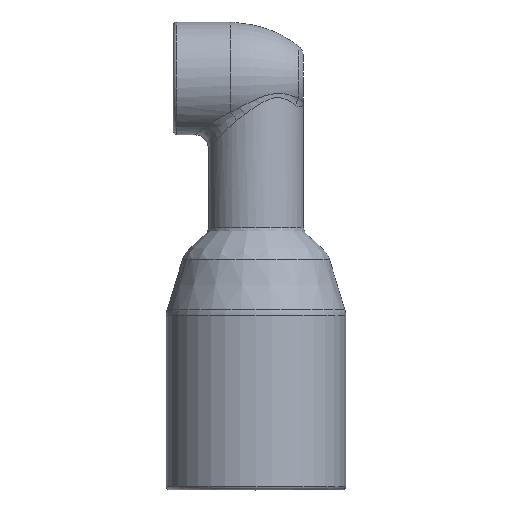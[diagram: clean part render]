
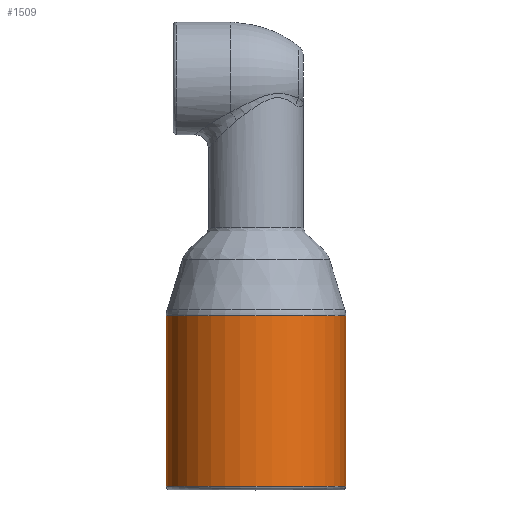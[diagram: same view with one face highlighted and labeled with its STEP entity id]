
A CAD part, top view. The second image highlights one B-rep face of the part: STEP entity #1509.
In plain terms, the highlighted cylindrical face has radius 25.5 mm (diameter 51 mm), a partial arc.
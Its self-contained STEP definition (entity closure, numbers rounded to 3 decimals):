
#282=CARTESIAN_POINT('',(0.,0.44,0.));
#283=DIRECTION('',(0.,-1.,0.));
#284=DIRECTION('',(1.,0.,0.));
#285=AXIS2_PLACEMENT_3D('',#282,#283,#284);
#298=CARTESIAN_POINT('',(0.,-48.06,0.));
#299=DIRECTION('',(0.,1.,0.));
#300=DIRECTION('',(-1.,0.,0.));
#301=AXIS2_PLACEMENT_3D('',#298,#299,#300);
#306=DIRECTION('',(0.,1.,0.));
#307=VECTOR('',#306,48.5);
#308=CARTESIAN_POINT('',(-25.5,-48.06,0.));
#309=LINE('',#308,#307);
#313=DIRECTION('',(0.,1.,0.));
#314=VECTOR('',#313,48.5);
#315=CARTESIAN_POINT('',(25.5,-48.06,0.));
#316=LINE('',#315,#314);
#1090=CARTESIAN_POINT('',(25.5,0.44,0.));
#1092=VERTEX_POINT('',#1090);
#1096=CARTESIAN_POINT('',(-25.5,0.44,0.));
#1098=VERTEX_POINT('',#1096);
#1110=CARTESIAN_POINT('',(-25.5,-48.06,0.));
#1111=CARTESIAN_POINT('',(25.5,-48.06,0.));
#1112=VERTEX_POINT('',#1110);
#1113=VERTEX_POINT('',#1111);
#1495=CARTESIAN_POINT('',(0.,-54.91,0.));
#1496=DIRECTION('',(0.,1.,0.));
#1497=DIRECTION('',(1.,0.,0.));
#1498=AXIS2_PLACEMENT_3D('',#1495,#1496,#1497);
#1499=CYLINDRICAL_SURFACE('',#1498,25.5);
#1501=ORIENTED_EDGE('',*,*,#1500,.F.);
#1503=ORIENTED_EDGE('',*,*,#1502,.T.);
#1504=ORIENTED_EDGE('',*,*,#1488,.F.);
#1506=ORIENTED_EDGE('',*,*,#1505,.F.);
#1507=EDGE_LOOP('',(#1501,#1503,#1504,#1506));
#1508=FACE_OUTER_BOUND('',#1507,.F.);
#1509=ADVANCED_FACE('',(#1508),#1499,.T.);
#286=CIRCLE('',#285,25.5);
#302=CIRCLE('',#301,25.5);
#1488=EDGE_CURVE('',#1092,#1098,#286,.T.);
#1500=EDGE_CURVE('',#1112,#1113,#302,.T.);
#1502=EDGE_CURVE('',#1112,#1098,#309,.T.);
#1505=EDGE_CURVE('',#1113,#1092,#316,.T.);
